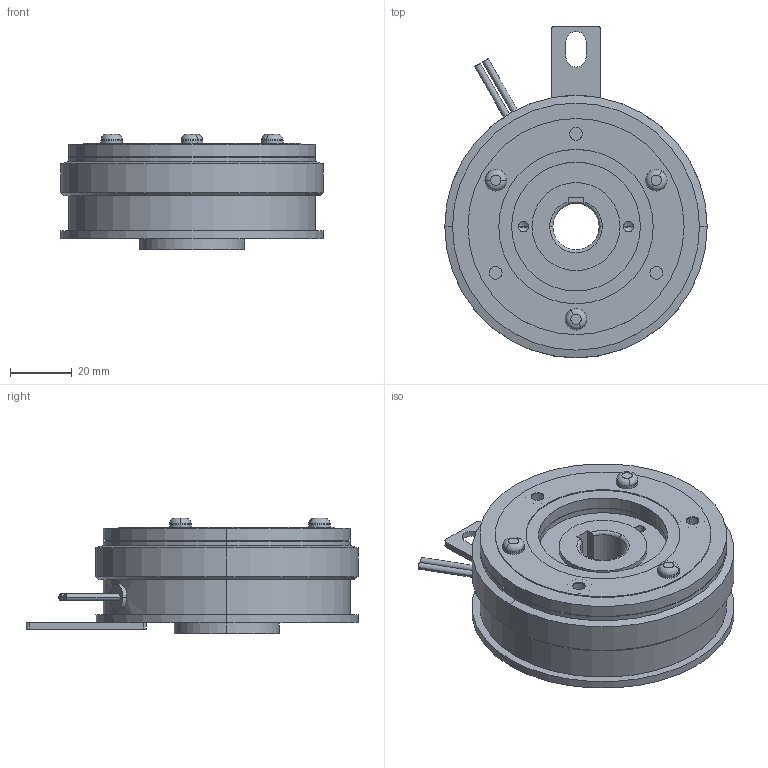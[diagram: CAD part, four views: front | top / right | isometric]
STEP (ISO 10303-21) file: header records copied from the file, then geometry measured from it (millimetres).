
FILE_DESCRIPTION (( 'STEP AP214' ), '1' );
FILE_NAME ('CS-08-33G 15DIN.STEP', '2018-02-22T04:50:03', ( 'MIKI' ), ( '' ), 'SwSTEP 2.0', 'SolidWorks 2012', '' );
FILE_SCHEMA (( 'AUTOMOTIVE_DESIGN' ));
Length unit declared in the file: millimetre
Products named in the file (1): CS-08-33G 15DIN
Bounding box: 85 x 107.5 x 37.35 mm (x, y, z)
Volume: 153731.6 mm3; surface area: 29012 mm2
Topology: 1 solids, 2 shells, 149 faces, 324 edges, 200 vertices
Faces by surface type: cylinder 75, plane 40, cone 22, torus 12
Entity records: 5831 total; most frequent: DIRECTION 794, CARTESIAN_POINT 768, ORIENTED_EDGE 632, AXIS2_PLACEMENT_3D 334, EDGE_CURVE 316, VERTEX_POINT 200, CIRCLE 184, EDGE_LOOP 184
